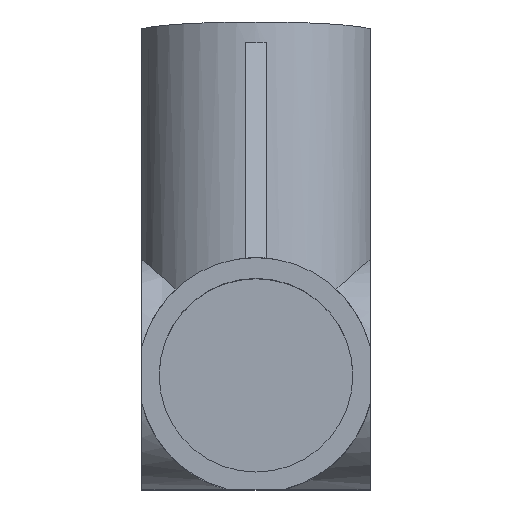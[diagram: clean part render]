
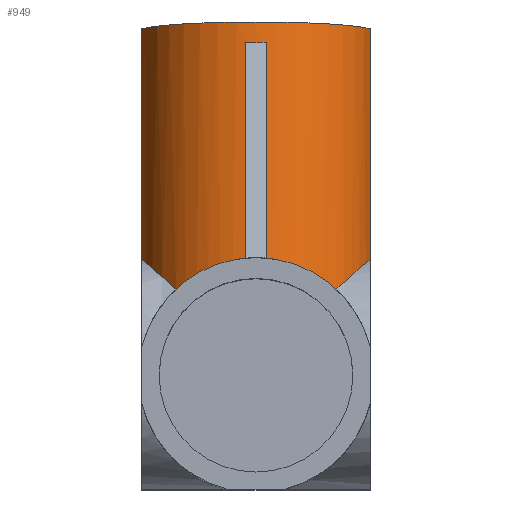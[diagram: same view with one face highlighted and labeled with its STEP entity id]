
A CAD part, top view. The second image highlights one B-rep face of the part: STEP entity #949.
In plain terms, the highlighted cylindrical face has radius 17 mm (diameter 34 mm), a partial arc.
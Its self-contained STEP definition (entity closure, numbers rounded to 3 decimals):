
#3 = DIRECTION ( 'NONE',  ( 0., 0.997, -0.075 ) ) ;
#12 = LINE ( 'NONE', #323, #557 ) ;
#31 = CARTESIAN_POINT ( 'NONE',  ( 15.698, 16.203, 6.129 ) ) ;
#44 = VECTOR ( 'NONE', #85, 1000. ) ;
#47 = CARTESIAN_POINT ( 'NONE',  ( 16.5, 16.76, 2.844 ) ) ;
#49 = CARTESIAN_POINT ( 'NONE',  ( -16.5, 50.166, 0.332 ) ) ;
#52 = CARTESIAN_POINT ( 'NONE',  ( -16.5, 50.166, 0.332 ) ) ;
#64 = CARTESIAN_POINT ( 'NONE',  ( -16.5, 16.76, 2.844 ) ) ;
#78 = CARTESIAN_POINT ( 'NONE',  ( 16.5, 50.166, 0.332 ) ) ;
#85 = DIRECTION ( 'NONE',  ( 0., -0.997, 0.075 ) ) ;
#100 = EDGE_CURVE ( 'NONE', #728, #384, #327, .T. ) ;
#107 = ORIENTED_EDGE ( 'NONE', *, *, #985, .F. ) ;
#108 = VERTEX_POINT ( 'NONE', #78 ) ;
#124 = LINE ( 'NONE', #49, #44 ) ;
#137 = VECTOR ( 'NONE', #629, 1000. ) ;
#153 = CIRCLE ( 'NONE', #284, 17. ) ;
#161 = CARTESIAN_POINT ( 'NONE',  ( 0.501, 48.12, 13.452 ) ) ;
#165 =( BOUNDED_CURVE ( )  B_SPLINE_CURVE ( 3, ( #357, #520, #673, #664 ),
 .UNSPECIFIED., .F., .T. ) 
 B_SPLINE_CURVE_WITH_KNOTS ( ( 4, 4 ),
 ( 2.394, 3.053 ),
 .UNSPECIFIED. ) 
 CURVE ( )  GEOMETRIC_REPRESENTATION_ITEM ( )  RATIONAL_B_SPLINE_CURVE ( ( 1., 0.964, 0.964, 1. ) ) 
 REPRESENTATION_ITEM ( '' )  );
#171 = VECTOR ( 'NONE', #3, 1000. ) ;
#181 = EDGE_CURVE ( 'NONE', #680, #108, #766, .T. ) ;
#196 = DIRECTION ( 'NONE',  ( 0., -0.997, 0.075 ) ) ;
#200 = EDGE_CURVE ( 'NONE', #898, #372, #12, .T. ) ;
#206 = EDGE_CURVE ( 'NONE', #680, #278, #225, .T. ) ;
#216 = CARTESIAN_POINT ( 'NONE',  ( -11.561, 12.463, 11.561 ) ) ;
#225 =( BOUNDED_CURVE ( )  B_SPLINE_CURVE ( 3, ( #47, #31, #795, #799 ),
 .UNSPECIFIED., .F., .F. ) 
 B_SPLINE_CURVE_WITH_KNOTS ( ( 4, 4 ),
 ( 3.385, 3.965 ),
 .UNSPECIFIED. ) 
 CURVE ( )  GEOMETRIC_REPRESENTATION_ITEM ( )  RATIONAL_B_SPLINE_CURVE ( ( 1., 0.972, 0.972, 1. ) ) 
 REPRESENTATION_ITEM ( '' )  );
#238 = CARTESIAN_POINT ( 'NONE',  ( -0.501, 48.12, 13.452 ) ) ;
#265 = CARTESIAN_POINT ( 'NONE',  ( -16.5, 16.76, 2.844 ) ) ;
#278 = VERTEX_POINT ( 'NONE', #873 ) ;
#280 = DIRECTION ( 'NONE',  ( 0., -0.075, -0.997 ) ) ;
#284 = AXIS2_PLACEMENT_3D ( 'NONE', #424, #196, #280 ) ;
#292 = CARTESIAN_POINT ( 'NONE',  ( -5.292, 16.598, 15.397 ) ) ;
#293 = CARTESIAN_POINT ( 'NONE',  ( 1.5, 48.209, 13.357 ) ) ;
#303 = ORIENTED_EDGE ( 'NONE', *, *, #206, .F. ) ;
#304 = FACE_OUTER_BOUND ( 'NONE', #546, .T. ) ;
#305 = EDGE_CURVE ( 'NONE', #108, #333, #153, .T. ) ;
#308 = ORIENTED_EDGE ( 'NONE', *, *, #977, .T. ) ;
#323 = CARTESIAN_POINT ( 'NONE',  ( -1.5, 51.129, 13.137 ) ) ;
#327 = LINE ( 'NONE', #863, #137 ) ;
#333 = VERTEX_POINT ( 'NONE', #52 ) ;
#352 = AXIS2_PLACEMENT_3D ( 'NONE', #535, #837, #849 ) ;
#357 = CARTESIAN_POINT ( 'NONE',  ( 11.561, 12.463, 11.561 ) ) ;
#372 = VERTEX_POINT ( 'NONE', #516 ) ;
#378 = VERTEX_POINT ( 'NONE', #64 ) ;
#384 = VERTEX_POINT ( 'NONE', #293 ) ;
#395 = CARTESIAN_POINT ( 'NONE',  ( -11.561, 12.463, 11.561 ) ) ;
#424 = CARTESIAN_POINT ( 'NONE',  ( 0., 49.859, -3.749 ) ) ;
#427 = CARTESIAN_POINT ( 'NONE',  ( -15.698, 16.203, 6.129 ) ) ;
#456 = ORIENTED_EDGE ( 'NONE', *, *, #200, .T. ) ;
#469 = CYLINDRICAL_SURFACE ( 'NONE', #352, 17. ) ;
#488 = CARTESIAN_POINT ( 'NONE',  ( -14.004, 14.73, 9.118 ) ) ;
#516 = CARTESIAN_POINT ( 'NONE',  ( -1.5, 48.209, 13.357 ) ) ;
#520 = CARTESIAN_POINT ( 'NONE',  ( 8.771, 15.052, 13.963 ) ) ;
#529 = ORIENTED_EDGE ( 'NONE', *, *, #813, .T. ) ;
#535 = CARTESIAN_POINT ( 'NONE',  ( 0., 49.859, -3.749 ) ) ;
#546 = EDGE_LOOP ( 'NONE', ( #902, #529, #107, #580, #456, #308, #890, #572, #303, #797 ) ) ;
#557 = VECTOR ( 'NONE', #932, 1000. ) ;
#572 = ORIENTED_EDGE ( 'NONE', *, *, #725, .F. ) ;
#580 = ORIENTED_EDGE ( 'NONE', *, *, #803, .F. ) ;
#599 = CARTESIAN_POINT ( 'NONE',  ( -8.771, 15.052, 13.963 ) ) ;
#621 = CARTESIAN_POINT ( 'NONE',  ( -1.5, 48.209, 13.357 ) ) ;
#629 = DIRECTION ( 'NONE',  ( 0., 0.997, -0.075 ) ) ;
#635 = CARTESIAN_POINT ( 'NONE',  ( 16.5, 16.76, 2.844 ) ) ;
#664 = CARTESIAN_POINT ( 'NONE',  ( 1.5, 16.934, 15.708 ) ) ;
#673 = CARTESIAN_POINT ( 'NONE',  ( 5.292, 16.598, 15.397 ) ) ;
#680 = VERTEX_POINT ( 'NONE', #635 ) ;
#705 =( BOUNDED_CURVE ( )  B_SPLINE_CURVE ( 3, ( #974, #292, #599, #216 ),
 .UNSPECIFIED., .F., .T. ) 
 B_SPLINE_CURVE_WITH_KNOTS ( ( 4, 4 ),
 ( 3.23, 3.889 ),
 .UNSPECIFIED. ) 
 CURVE ( )  GEOMETRIC_REPRESENTATION_ITEM ( )  RATIONAL_B_SPLINE_CURVE ( ( 1., 0.964, 0.964, 1. ) ) 
 REPRESENTATION_ITEM ( '' )  );
#725 = EDGE_CURVE ( 'NONE', #278, #728, #165, .T. ) ;
#728 = VERTEX_POINT ( 'NONE', #961 ) ;
#766 = LINE ( 'NONE', #851, #171 ) ;
#774 = CARTESIAN_POINT ( 'NONE',  ( 1.5, 48.209, 13.357 ) ) ;
#794 = VERTEX_POINT ( 'NONE', #832 ) ;
#795 = CARTESIAN_POINT ( 'NONE',  ( 14.004, 14.73, 9.118 ) ) ;
#797 = ORIENTED_EDGE ( 'NONE', *, *, #181, .T. ) ;
#799 = CARTESIAN_POINT ( 'NONE',  ( 11.561, 12.463, 11.561 ) ) ;
#803 = EDGE_CURVE ( 'NONE', #898, #794, #705, .T. ) ;
#808 =( BOUNDED_CURVE ( )  B_SPLINE_CURVE ( 3, ( #621, #238, #161, #774 ),
 .UNSPECIFIED., .F., .T. ) 
 B_SPLINE_CURVE_WITH_KNOTS ( ( 4, 4 ),
 ( 6.195, 6.372 ),
 .UNSPECIFIED. ) 
 CURVE ( )  GEOMETRIC_REPRESENTATION_ITEM ( )  RATIONAL_B_SPLINE_CURVE ( ( 1., 0.997, 0.997, 1. ) ) 
 REPRESENTATION_ITEM ( '' )  );
#813 = EDGE_CURVE ( 'NONE', #333, #378, #124, .T. ) ;
#832 = CARTESIAN_POINT ( 'NONE',  ( -11.561, 12.463, 11.561 ) ) ;
#837 = DIRECTION ( 'NONE',  ( 0., -0.997, 0.075 ) ) ;
#849 = DIRECTION ( 'NONE',  ( 0., -0.075, -0.997 ) ) ;
#851 = CARTESIAN_POINT ( 'NONE',  ( 16.5, 50.166, 0.332 ) ) ;
#863 = CARTESIAN_POINT ( 'NONE',  ( 1.5, 51.129, 13.137 ) ) ;
#873 = CARTESIAN_POINT ( 'NONE',  ( 11.561, 12.463, 11.561 ) ) ;
#890 = ORIENTED_EDGE ( 'NONE', *, *, #100, .F. ) ;
#898 = VERTEX_POINT ( 'NONE', #924 ) ;
#902 = ORIENTED_EDGE ( 'NONE', *, *, #305, .T. ) ;
#916 =( BOUNDED_CURVE ( )  B_SPLINE_CURVE ( 3, ( #395, #488, #427, #265 ),
 .UNSPECIFIED., .F., .T. ) 
 B_SPLINE_CURVE_WITH_KNOTS ( ( 4, 4 ),
 ( 5.46, 6.04 ),
 .UNSPECIFIED. ) 
 CURVE ( )  GEOMETRIC_REPRESENTATION_ITEM ( )  RATIONAL_B_SPLINE_CURVE ( ( 1., 0.972, 0.972, 1. ) ) 
 REPRESENTATION_ITEM ( '' )  );
#924 = CARTESIAN_POINT ( 'NONE',  ( -1.5, 16.934, 15.708 ) ) ;
#932 = DIRECTION ( 'NONE',  ( 0., 0.997, -0.075 ) ) ;
#949 = ADVANCED_FACE ( 'NONE', ( #304 ), #469, .T. ) ;
#961 = CARTESIAN_POINT ( 'NONE',  ( 1.5, 16.934, 15.708 ) ) ;
#974 = CARTESIAN_POINT ( 'NONE',  ( -1.5, 16.934, 15.708 ) ) ;
#977 = EDGE_CURVE ( 'NONE', #372, #384, #808, .T. ) ;
#985 = EDGE_CURVE ( 'NONE', #794, #378, #916, .T. ) ;
